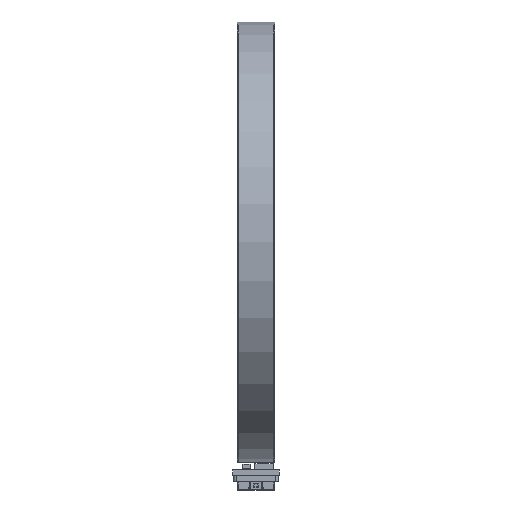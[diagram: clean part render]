
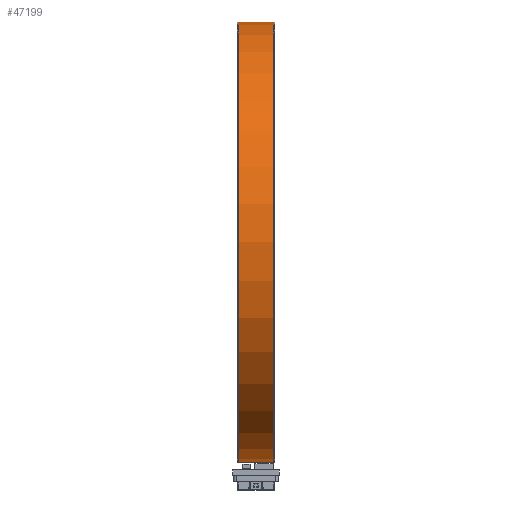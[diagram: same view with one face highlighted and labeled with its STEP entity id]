
A CAD part, left-side view. The second image highlights one B-rep face of the part: STEP entity #47199.
In plain terms, the highlighted cylindrical face has radius 81.276 mm (diameter 162.552 mm), a partial arc.
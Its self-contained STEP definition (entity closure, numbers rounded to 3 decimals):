
#1910 = CARTESIAN_POINT ( 'NONE',  ( 0., 13.5, -81.276 ) ) ;
#5433 = CARTESIAN_POINT ( 'NONE',  ( 0., 0.5, 0. ) ) ;
#7630 = EDGE_CURVE ( 'NONE', #59433, #66878, #31522, .T. ) ;
#7660 = EDGE_CURVE ( 'NONE', #59433, #34574, #12553, .T. ) ;
#7793 = CARTESIAN_POINT ( 'NONE',  ( 0., 13.5, 0. ) ) ;
#7803 = DIRECTION ( 'NONE',  ( 0., -1., 0. ) ) ;
#9773 = DIRECTION ( 'NONE',  ( 0., 0., -1. ) ) ;
#9945 = ORIENTED_EDGE ( 'NONE', *, *, #73743, .T. ) ;
#10070 = AXIS2_PLACEMENT_3D ( 'NONE', #7793, #32563, #61266 ) ;
#12553 = CIRCLE ( 'NONE', #10070, 81.276 ) ;
#13657 = FACE_OUTER_BOUND ( 'NONE', #54942, .T. ) ;
#14407 = CARTESIAN_POINT ( 'NONE',  ( 0., 0., 0. ) ) ;
#15457 = AXIS2_PLACEMENT_3D ( 'NONE', #14407, #7803, #56115 ) ;
#16578 = VECTOR ( 'NONE', #24654, 1000. ) ;
#21161 = CIRCLE ( 'NONE', #23717, 81.276 ) ;
#23342 = CARTESIAN_POINT ( 'NONE',  ( 0., 0.5, -81.276 ) ) ;
#23717 = AXIS2_PLACEMENT_3D ( 'NONE', #5433, #28645, #9773 ) ;
#23888 = EDGE_CURVE ( 'NONE', #66878, #35725, #21161, .T. ) ;
#24654 = DIRECTION ( 'NONE',  ( 0., -1., 0. ) ) ;
#25602 = CARTESIAN_POINT ( 'NONE',  ( 0., 0., 81.276 ) ) ;
#28645 = DIRECTION ( 'NONE',  ( 0., -1., 0. ) ) ;
#31522 = LINE ( 'NONE', #25602, #62755 ) ;
#32563 = DIRECTION ( 'NONE',  ( 0., -1., 0. ) ) ;
#34158 = CARTESIAN_POINT ( 'NONE',  ( 0., 0., -81.276 ) ) ;
#34574 = VERTEX_POINT ( 'NONE', #1910 ) ;
#34617 = CARTESIAN_POINT ( 'NONE',  ( 0., 13.5, 81.276 ) ) ;
#35725 = VERTEX_POINT ( 'NONE', #23342 ) ;
#42016 = ORIENTED_EDGE ( 'NONE', *, *, #23888, .F. ) ;
#43703 = DIRECTION ( 'NONE',  ( 0., -1., 0. ) ) ;
#47199 = ADVANCED_FACE ( 'NONE', ( #13657 ), #61659, .T. ) ;
#54942 = EDGE_LOOP ( 'NONE', ( #77639, #68716, #9945, #42016 ) ) ;
#56115 = DIRECTION ( 'NONE',  ( 0., 0., -1. ) ) ;
#59433 = VERTEX_POINT ( 'NONE', #34617 ) ;
#59857 = CARTESIAN_POINT ( 'NONE',  ( 0., 0.5, 81.276 ) ) ;
#61266 = DIRECTION ( 'NONE',  ( 0., 0., -1. ) ) ;
#61659 = CYLINDRICAL_SURFACE ( 'NONE', #15457, 81.276 ) ;
#62755 = VECTOR ( 'NONE', #43703, 1000. ) ;
#64046 = LINE ( 'NONE', #34158, #16578 ) ;
#66878 = VERTEX_POINT ( 'NONE', #59857 ) ;
#68716 = ORIENTED_EDGE ( 'NONE', *, *, #7660, .T. ) ;
#73743 = EDGE_CURVE ( 'NONE', #34574, #35725, #64046, .T. ) ;
#77639 = ORIENTED_EDGE ( 'NONE', *, *, #7630, .F. ) ;
